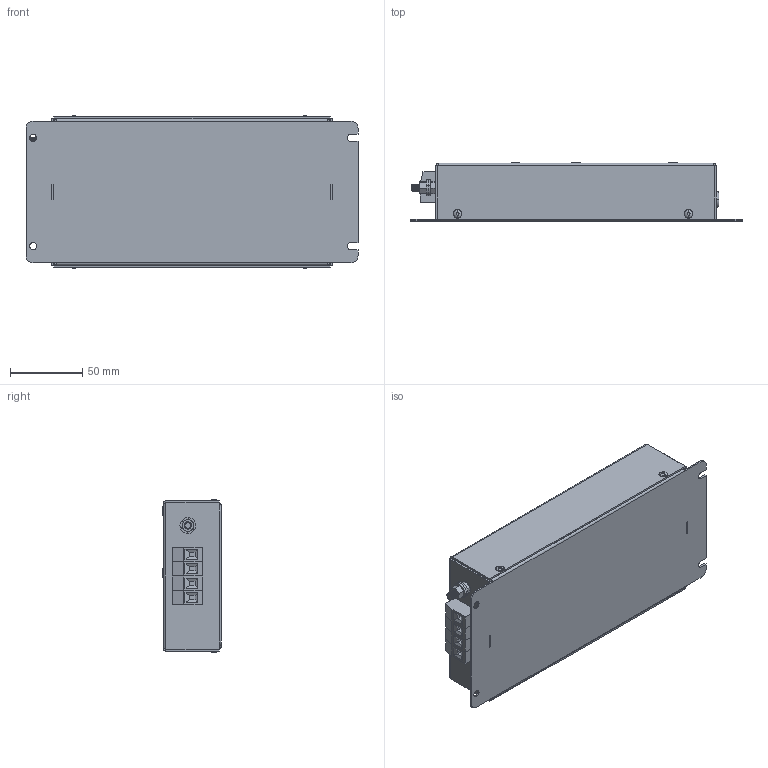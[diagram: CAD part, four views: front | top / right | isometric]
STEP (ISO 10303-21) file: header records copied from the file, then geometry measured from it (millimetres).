
FILE_DESCRIPTION (( 'STEP AP203' ), '1' );
FILE_NAME ('RF1016-SG7 assembly.STEP', '2016-03-09T15:40:32', ( '' ), ( '' ), 'SwSTEP 2.0', 'SolidWorks 2016', '' );
FILE_SCHEMA (( 'CONFIG_CONTROL_DESIGN' ));
Length unit declared in the file: millimetre
Products named in the file (12): Grommet_15065; RF1016-SG7 box; 3.5mm Rivet; hex nut style 1_am_B18.2.4.1M - Hex nut, Style 1,  M5 x 0.8 --D-N; M4 Hank; Flat Washer Narrow_AM_B18.22M - Plain washer, 5 mm, narrow; Hex Screw_AM_B18.6.7M - M5 x 0.8 x 13 Indented HHMS --13S; RF1016-SG7 assembly; M5x20 Earth post; blind fastener_pmm_PEM B-M4-1 ZI--N; RF1016-SG7 LID; VDFK-4
Assembly tree (26 placements, depth 3):
  RF1016-SG7 assembly
    RF1016-SG7 box
    RF1016-SG7 LID
    M5x20 Earth post
      Flat Washer Narrow_AM_B18.22M - Plain washer, 5 mm, narrow  x2
      hex nut style 1_am_B18.2.4.1M - Hex nut, Style 1,  M5 x 0.8 --D-N
      Hex Screw_AM_B18.6.7M - M5 x 0.8 x 13 Indented HHMS --13S
    Grommet_15065  x2
    3.5mm Rivet  x4
    VDFK-4  x4
    M4 Hank  x3
    blind fastener_pmm_PEM B-M4-1 ZI--N  x6
Bounding box: 230 x 40.3 x 106 mm (x, y, z)
Volume: 93873.4 mm3; surface area: 148962.2 mm2
Topology: 25 solids, 25 shells, 1051 faces, 2590 edges, 1636 vertices
Faces by surface type: plane 573, cylinder 272, cone 182, torus 16, bspline 8
Entity records: 16063 total; most frequent: CARTESIAN_POINT 2939, DIRECTION 2525, ORIENTED_EDGE 2294, EDGE_CURVE 1147, AXIS2_PLACEMENT_3D 943, VERTEX_POINT 717, VECTOR 639, LINE 639
